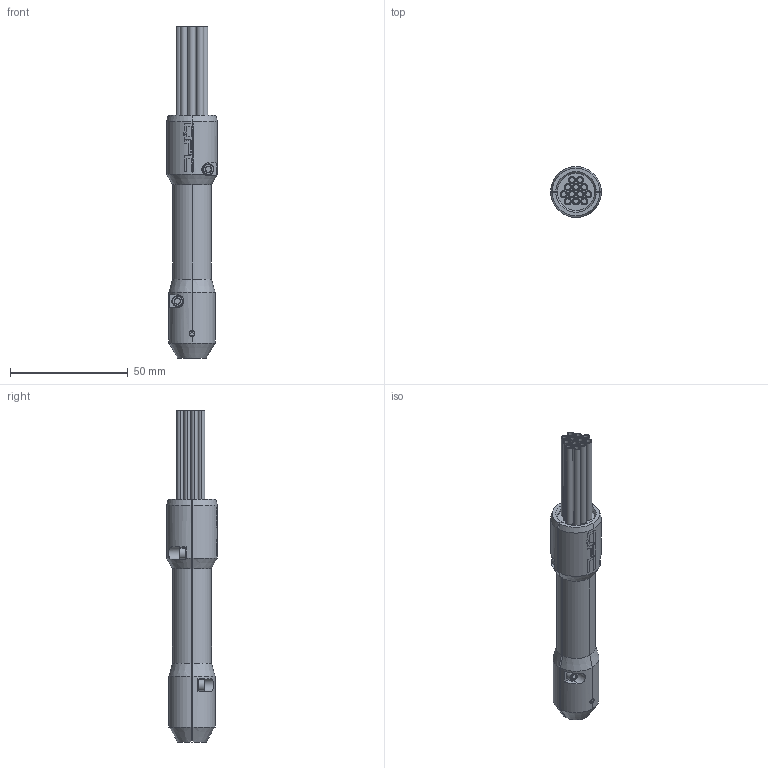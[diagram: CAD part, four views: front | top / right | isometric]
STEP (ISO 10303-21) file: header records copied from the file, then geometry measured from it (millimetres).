
FILE_DESCRIPTION (( 'STEP AP214' ), '1' );
FILE_NAME ('QGRIP-3S-12CH-SXX.STEP', '2025-03-27T22:53:06', ( '' ), ( '' ), 'SwSTEP 2.0', 'SolidWorks 2024', '' );
FILE_SCHEMA (( 'AUTOMOTIVE_DESIGN' ));
Length unit declared in the file: inch
Products named in the file (1): QGRIP-3S-12CH-SXX
Bounding box: 21.49 x 21.5 x 140.83 mm (x, y, z)
Volume: 27633.3 mm3; surface area: 22994.8 mm2
Topology: 1 solids, 13 shells, 573 faces, 1499 edges, 956 vertices
Faces by surface type: cylinder 248, plane 167, cone 137, bspline 21
Entity records: 22911 total; most frequent: CARTESIAN_POINT 9353, ORIENTED_EDGE 2982, DIRECTION 2721, EDGE_CURVE 1491, AXIS2_PLACEMENT_3D 1079, VERTEX_POINT 956, EDGE_LOOP 629, FACE_OUTER_BOUND 573
